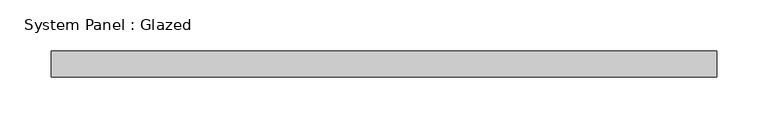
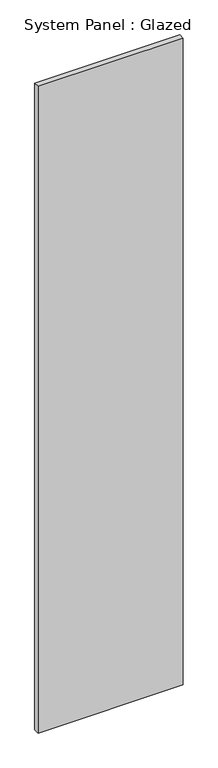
"""IFC4 building model written with IfcOpenShell, lengths in millimetres: plate geometry, System Panel : Glazed."""

from ifc_helpers import new_model, si_unit, origin, origin_with_axes, place, context, project, spatial, polyline, outline, extrude, source, transform, mapped, element, save


def system_panel_glazed_769dbdec(model_context):
    return source(origin(), model_context, "Body", "SweptSolid", [
        extrude(outline(polyline([(323.8080453, -44.45), (-323.8080453, -44.45), (-323.8080453, -19.05), (323.8080453, -19.05), (323.8080453, -44.45)])), origin_with_axes(), (0.0, 0.0, 1.0), 3048.0),
    ])


if __name__ == "__main__":
    model = new_model("IFC4")
    model_context = context("Model", 3, world=origin())
    ifc_project = project(units=[si_unit("LENGTHUNIT", "METRE", prefix="MILLI")], contexts=[model_context])
    site = spatial("IfcSite", under=ifc_project)
    building = spatial("IfcBuilding", under=site)
    placement = place(None, origin())
    system_panel_glazed_shape = system_panel_glazed_769dbdec(model_context)
    element("IfcPlate", 1, ObjectType="System Panel : Glazed", at=placement, inside=building, context=model_context, shape_type="MappedRepresentation", body=[
        mapped(system_panel_glazed_shape, transform((0.0, 0.0, 0.0), x_axis=(1.0, 0.0, 0.0), y_axis=(0.0, 1.0, 0.0), z_axis=(0.0, 0.0, 1.0))),
    ])
    save(model, "model.ifc")
